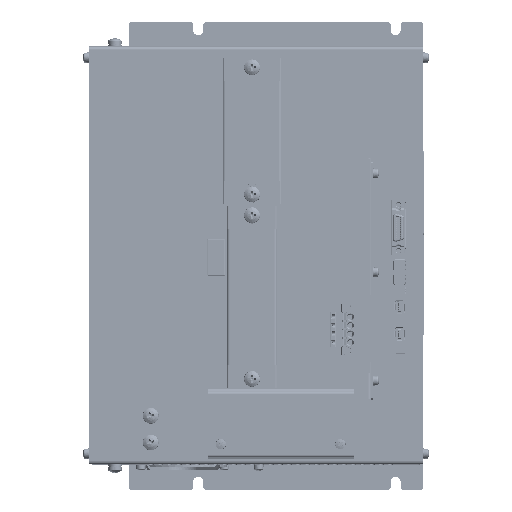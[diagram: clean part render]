
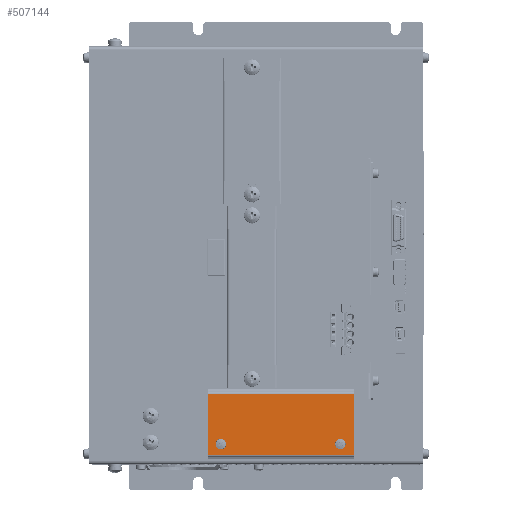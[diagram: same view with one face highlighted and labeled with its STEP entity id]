
A CAD part, top view. The second image highlights one B-rep face of the part: STEP entity #507144.
In plain terms, the highlighted planar face has unit normal (0, 0, 1).
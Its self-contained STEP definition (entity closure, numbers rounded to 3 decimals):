
#7896 = DIRECTION ( 'NONE',  ( 0., -1., 0. ) ) ;
#8340 = DIRECTION ( 'NONE',  ( 1., 0., 0. ) ) ;
#15642 = EDGE_CURVE ( 'NONE', #53621, #78635, #288260, .T. ) ;
#27752 = LINE ( 'NONE', #117245, #290868 ) ;
#28690 = VERTEX_POINT ( 'NONE', #225408 ) ;
#36507 = LINE ( 'NONE', #213776, #161647 ) ;
#43954 = CARTESIAN_POINT ( 'NONE',  ( -70.972, -123.371, 193.343 ) ) ;
#53621 = VERTEX_POINT ( 'NONE', #295215 ) ;
#74899 = VERTEX_POINT ( 'NONE', #43954 ) ;
#78635 = VERTEX_POINT ( 'NONE', #491906 ) ;
#80114 = VERTEX_POINT ( 'NONE', #522490 ) ;
#93685 = EDGE_CURVE ( 'NONE', #156070, #74899, #36507, .T. ) ;
#97009 = EDGE_LOOP ( 'NONE', ( #479710, #242331 ) ) ;
#100708 = EDGE_CURVE ( 'NONE', #28690, #80114, #441776, .T. ) ;
#109467 = EDGE_CURVE ( 'NONE', #339772, #283247, #313784, .T. ) ;
#117245 = CARTESIAN_POINT ( 'NONE',  ( 16.528, -87.071, 193.343 ) ) ;
#120610 = CARTESIAN_POINT ( 'NONE',  ( 6.528, -116.871, 193.343 ) ) ;
#134774 = VECTOR ( 'NONE', #418903, 1000. ) ;
#145449 = EDGE_CURVE ( 'NONE', #283247, #339772, #214742, .T. ) ;
#154450 = LINE ( 'NONE', #499729, #134774 ) ;
#156070 = VERTEX_POINT ( 'NONE', #491888 ) ;
#161647 = VECTOR ( 'NONE', #7896, 1000. ) ;
#186200 = EDGE_CURVE ( 'NONE', #53621, #156070, #27752, .T. ) ;
#196066 = VECTOR ( 'NONE', #196986, 1000. ) ;
#196986 = DIRECTION ( 'NONE',  ( 0., -1., 0. ) ) ;
#204665 = AXIS2_PLACEMENT_3D ( 'NONE', #491827, #331920, #539524 ) ;
#213776 = CARTESIAN_POINT ( 'NONE',  ( -70.972, -124.371, 193.343 ) ) ;
#214742 = CIRCLE ( 'NONE', #282517, 2. ) ;
#217205 = DIRECTION ( 'NONE',  ( 0., 0., 1. ) ) ;
#219935 = FACE_BOUND ( 'NONE', #97009, .T. ) ;
#225408 = CARTESIAN_POINT ( 'NONE',  ( -60.972, -116.871, 193.343 ) ) ;
#242331 = ORIENTED_EDGE ( 'NONE', *, *, #364463, .F. ) ;
#244681 = ORIENTED_EDGE ( 'NONE', *, *, #109467, .F. ) ;
#246999 = ORIENTED_EDGE ( 'NONE', *, *, #145449, .F. ) ;
#265620 = DIRECTION ( 'NONE',  ( 0., 0., 1. ) ) ;
#265962 = ORIENTED_EDGE ( 'NONE', *, *, #93685, .T. ) ;
#278338 = EDGE_LOOP ( 'NONE', ( #265962, #473598, #522261, #427023 ) ) ;
#282517 = AXIS2_PLACEMENT_3D ( 'NONE', #469004, #217205, #301677 ) ;
#283247 = VERTEX_POINT ( 'NONE', #343016 ) ;
#288260 = LINE ( 'NONE', #364175, #196066 ) ;
#290868 = VECTOR ( 'NONE', #367186, 1000. ) ;
#295215 = CARTESIAN_POINT ( 'NONE',  ( 16.528, -87.071, 193.343 ) ) ;
#301677 = DIRECTION ( 'NONE',  ( 1., 0., 0. ) ) ;
#313784 = CIRCLE ( 'NONE', #530944, 2. ) ;
#327353 = CARTESIAN_POINT ( 'NONE',  ( -62.972, -116.871, 193.343 ) ) ;
#331920 = DIRECTION ( 'NONE',  ( 0., 0., -1. ) ) ;
#339772 = VERTEX_POINT ( 'NONE', #120610 ) ;
#343016 = CARTESIAN_POINT ( 'NONE',  ( 10.528, -116.871, 193.343 ) ) ;
#348294 = CARTESIAN_POINT ( 'NONE',  ( -62.972, -116.871, 193.343 ) ) ;
#356397 = DIRECTION ( 'NONE',  ( 1., 0., 0. ) ) ;
#364175 = CARTESIAN_POINT ( 'NONE',  ( 16.528, -124.371, 193.343 ) ) ;
#364463 = EDGE_CURVE ( 'NONE', #80114, #28690, #530790, .T. ) ;
#367186 = DIRECTION ( 'NONE',  ( -1., 0., 0. ) ) ;
#386841 = AXIS2_PLACEMENT_3D ( 'NONE', #348294, #265620, #8340 ) ;
#400473 = CARTESIAN_POINT ( 'NONE',  ( 8.528, -116.871, 193.343 ) ) ;
#415488 = DIRECTION ( 'NONE',  ( 1., 0., 0. ) ) ;
#417109 = FACE_BOUND ( 'NONE', #540449, .T. ) ;
#418903 = DIRECTION ( 'NONE',  ( 1., 0., 0. ) ) ;
#424509 = EDGE_CURVE ( 'NONE', #74899, #78635, #154450, .T. ) ;
#427023 = ORIENTED_EDGE ( 'NONE', *, *, #186200, .T. ) ;
#430436 = FACE_OUTER_BOUND ( 'NONE', #278338, .T. ) ;
#441776 = CIRCLE ( 'NONE', #386841, 2. ) ;
#456025 = DIRECTION ( 'NONE',  ( 0., 0., 1. ) ) ;
#469004 = CARTESIAN_POINT ( 'NONE',  ( 8.528, -116.871, 193.343 ) ) ;
#473598 = ORIENTED_EDGE ( 'NONE', *, *, #424509, .T. ) ;
#479710 = ORIENTED_EDGE ( 'NONE', *, *, #100708, .F. ) ;
#488523 = DIRECTION ( 'NONE',  ( 0., 0., 1. ) ) ;
#491827 = CARTESIAN_POINT ( 'NONE',  ( 16.528, -124.371, 193.343 ) ) ;
#491888 = CARTESIAN_POINT ( 'NONE',  ( -70.972, -87.071, 193.343 ) ) ;
#491906 = CARTESIAN_POINT ( 'NONE',  ( 16.528, -123.371, 193.343 ) ) ;
#499050 = PLANE ( 'NONE',  #204665 ) ;
#499729 = CARTESIAN_POINT ( 'NONE',  ( 16.528, -123.371, 193.343 ) ) ;
#507144 = ADVANCED_FACE ( 'NONE', ( #430436, #417109, #219935 ), #499050, .F. ) ;
#508087 = AXIS2_PLACEMENT_3D ( 'NONE', #327353, #456025, #415488 ) ;
#522261 = ORIENTED_EDGE ( 'NONE', *, *, #15642, .F. ) ;
#522490 = CARTESIAN_POINT ( 'NONE',  ( -64.972, -116.871, 193.343 ) ) ;
#530790 = CIRCLE ( 'NONE', #508087, 2. ) ;
#530944 = AXIS2_PLACEMENT_3D ( 'NONE', #400473, #488523, #356397 ) ;
#539524 = DIRECTION ( 'NONE',  ( 0., -1., 0. ) ) ;
#540449 = EDGE_LOOP ( 'NONE', ( #246999, #244681 ) ) ;
